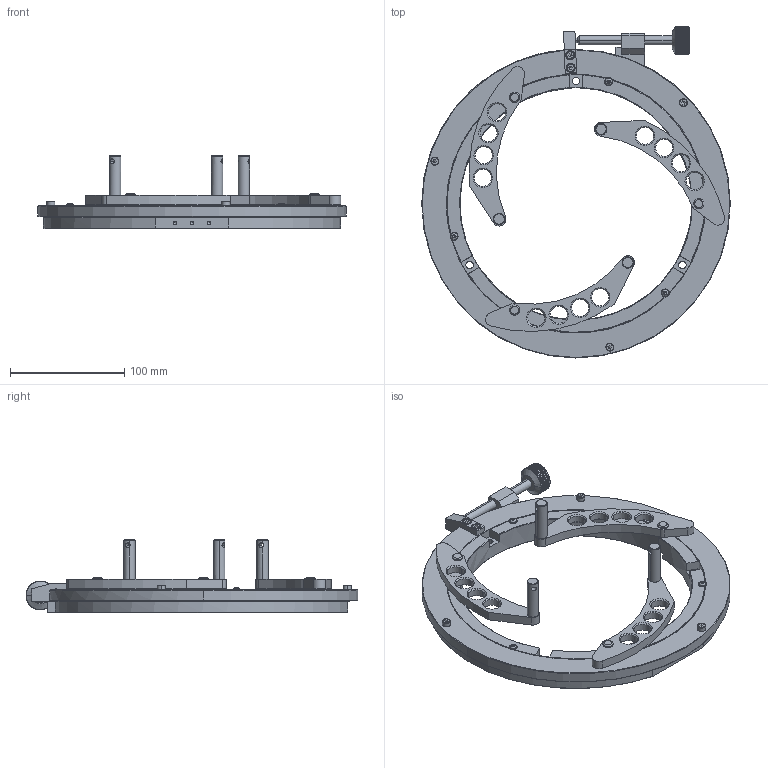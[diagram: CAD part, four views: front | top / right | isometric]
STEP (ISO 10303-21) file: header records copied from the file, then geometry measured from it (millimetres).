
FILE_DESCRIPTION (( 'STEP AP203' ), '1' );
FILE_NAME ('4SCML-8.STEP', '2010-02-22T09:42:29', ( 'Darius' ), ( '' ), 'SwSTEP 2.0', 'SolidWorks 2003240', '' );
FILE_SCHEMA (( 'CONFIG_CONTROL_DESIGN' ));
Length unit declared in the file: millimetre
Products named in the file (1): 4SCML-8
Bounding box: 270 x 290.5 x 64 mm (x, y, z)
Volume: 527134.8 mm3; surface area: 131520.6 mm2
Topology: 1 solids, 19 shells, 960 faces, 2607 edges, 1681 vertices
Faces by surface type: plane 447, cylinder 346, cone 141, bspline 26
Entity records: 31826 total; most frequent: CARTESIAN_POINT 8244, ORIENTED_EDGE 5138, DIRECTION 4653, EDGE_CURVE 2569, AXIS2_PLACEMENT_3D 1826, VERTEX_POINT 1681, EDGE_LOOP 1084, VECTOR 1001
